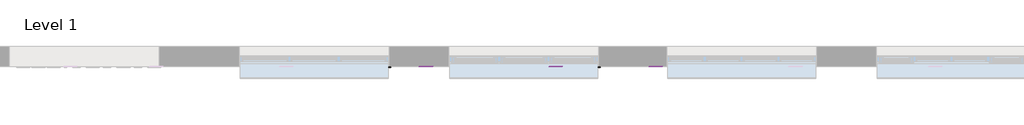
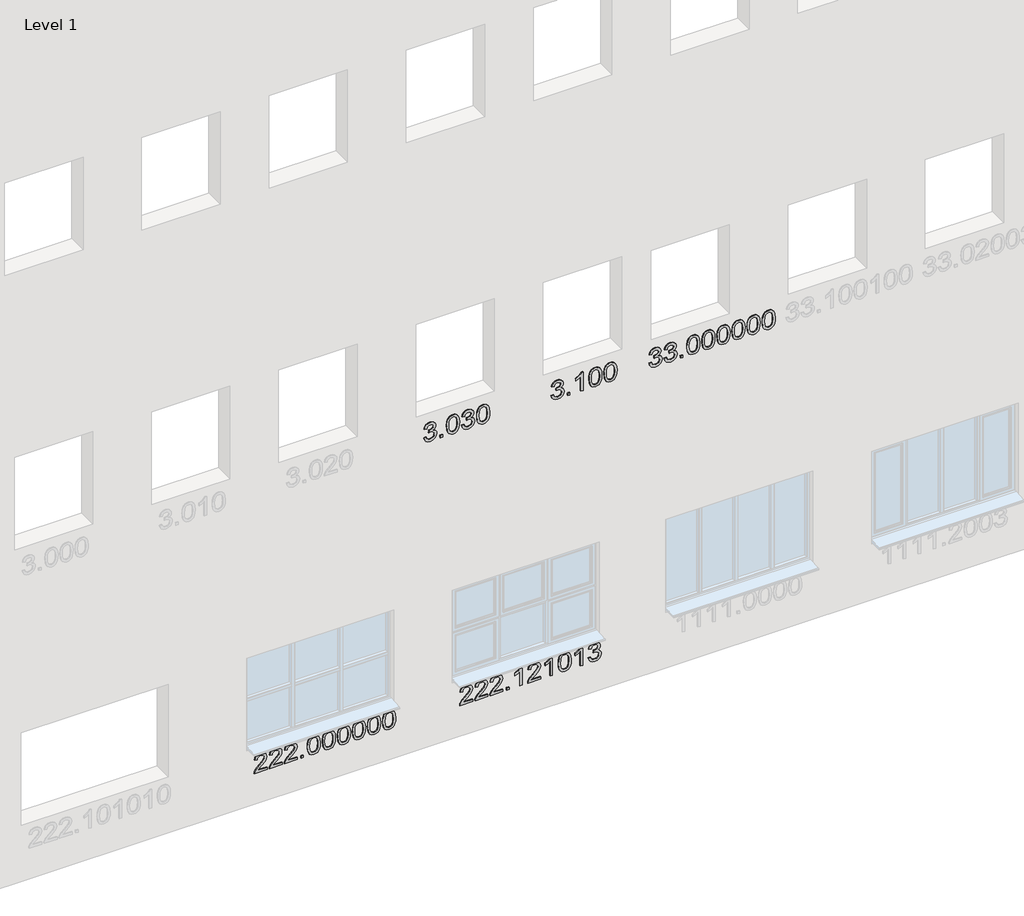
# One storey, part 2 of 3: 5 proxies.
"""IFC4 building model written with IfcOpenShell, lengths in millimetres."""

from ifc_helpers import new_model, si_unit, frame, origin, place, context, project, spatial, polyline, outline, extrude, element, save

model = new_model("IFC4")

# Units and contexts
model_context = context("Model", 3, world=origin())
ifc_project = project(units=[si_unit("LENGTHUNIT", "METRE", prefix="MILLI")], contexts=[model_context])

# Site, building, storey
site = spatial("IfcSite", under=ifc_project)
building = spatial("IfcBuilding", under=site)
storey = spatial("IfcBuildingStorey", under=building, Name="Level 1", Elevation=0.0)

# Proxies
placement = place(None, origin())
element("IfcBuildingElementProxy", 1, Name="200mm Arial", ObjectType="200mm Arial", at=placement, inside=storey, context=model_context, shape_type="SweptSolid", body=[
    extrude(outline(polyline([(3021.5066745, -167048.5681121), (2998.8083554, -167042.3509064), (2980.7453494, -167028.6043825), (2968.9363373, -167008.8368566), (2965.0, -166984.5566449), (2969.6107877, -166957.713522), (2983.4431507, -166935.9471706), (3003.8973896, -166921.5261964), (3028.373805, -166916.719205), (3046.3509719, -166919.1227007), (3061.0417262, -166926.3331878), (3071.8574569, -166937.9827843), (3078.2095526, -166953.7036082), (3085.456828, -166941.7351807), (3094.8378188, -166933.1022165), (3105.8497532, -166927.8782922), (3117.9898591, -166926.1369841), (3131.0190131, -166927.9702627), (3143.3246658, -166933.4700985), (3154.0055064, -166942.4341565), (3162.1602239, -166954.6601014), (3167.328966, -166969.1607834), (3169.05188, -166984.9490524), (3165.557001, -167006.8748193), (3155.0723642, -167024.8765116), (3138.2356315, -167038.0344243), (3115.6844652, -167045.4288524), (3112.5452055, -167020.3147748), (3126.2794667, -167015.8634027), (3136.0896532, -167008.0029907), (3141.9757651, -166997.236311), (3143.9378025, -166984.0661356), (3141.9941592, -166970.9204856), (3136.1632296, -166960.423586), (3127.3647186, -166953.5441927), (3116.5183311, -166951.2510616), (3103.4953085, -166954.4148468), (3094.3473095, -166963.9062022), (3088.9394442, -166977.3584205), (3087.1368224, -166992.4047941), (3087.431128, -166996.4269706), (3062.3170505, -166999.2228738), (3065.0639027, -166981.6135889), (3062.4948601, -166965.8191886), (3054.7877323, -166953.0659461), (3043.1565299, -166944.6414484), (3028.8152634, -166941.8332825), (3013.7075762, -166944.6659739), (3001.2486393, -166953.164048), (2992.897718, -166966.4568507), (2990.1140775, -166983.6737281), (2992.1374285, -166998.3460884), (2998.2074814, -167009.597146), (3008.8637966, -167017.8315714), (3024.6459342, -167023.4540345), (3021.5066745, -167048.5681121)])), frame((0.0, 24202.6264647, 0.0), z_axis=(0.0, 1.0, 0.0), x_axis=(0.0, 0.0, 1.0)), (0.0, 0.0, 1.0), 10.0),
    extrude(outline(polyline([(-166857.0732708, 24202.6264647), (-166882.1873484, 24202.6264647), (-166882.1873484, 24212.6264647), (-166857.0732708, 24212.6264647), (-166857.0732708, 24202.6264647)])), frame((0.0, 0.0, 2968.1392597), z_axis=(0.0, 0.0, 1.0), x_axis=(1.0, 0.0, 0.0)), (0.0, 0.0, 1.0), 25.1140775),
    extrude(outline(polyline([(3066.9768891, -166816.2628949), (3018.1098974, -166811.2596997), (2999.2590108, -166805.0057058), (2984.1298637, -166796.2501143), (2969.7824659, -166776.4335375), (2965.0, -166750.3384413), (2967.7529836, -166730.0374865), (2976.0119344, -166713.5747673), (2989.8688229, -166700.8399189), (3009.4156196, -166691.7225768), (3035.0018123, -166686.241135), (3066.9768891, -166684.4139878), (3114.1884118, -166688.9757245), (3143.913277, -166700.7479484), (3154.6738253, -166709.4177007), (3162.5771569, -166721.0059836), (3167.4331992, -166734.8628721), (3169.05188, -166750.3384413), (3166.3172905, -166770.5290315), (3158.113522, -166786.9549626), (3144.3118158, -166799.7082051), (3124.7834132, -166808.8807295), (3099.1359068, -166814.4173535), (3066.9768891, -166816.2628949)]), holes=[polyline([(3067.02594, -166791.1488173), (3106.0214315, -166788.1076595), (3130.4978469, -166778.984186), (3140.5778136, -166766.3535708), (3143.9378025, -166750.6327469), (3140.1240924, -166734.0290062), (3128.6829624, -166720.9078817), (3105.6412868, -166712.3730194), (3067.02594, -166709.5280653), (3027.5828587, -166712.4711213), (3004.70673, -166721.3002892), (2993.7622407, -166734.4459391), (2990.1140775, -166750.3384413), (2993.7499779, -166766.2309435), (3004.6576791, -166779.3765935), (3027.5215451, -166788.2057614), (3067.02594, -166791.1488173)])]), frame((0.0, 24202.6264647, 0.0), z_axis=(0.0, 1.0, 0.0), x_axis=(0.0, 0.0, 1.0)), (0.0, 0.0, 1.0), 10.0),
    extrude(outline(polyline([(3021.5066745, -166662.4391699), (2998.8083554, -166656.2219642), (2980.7453494, -166642.4754403), (2968.9363373, -166622.7079145), (2965.0, -166598.4277028), (2969.6107877, -166571.5845799), (2983.4431507, -166549.8182285), (3003.8973896, -166535.3972543), (3028.373805, -166530.5902629), (3046.3509719, -166532.9937586), (3061.0417262, -166540.2042457), (3071.8574569, -166551.8538422), (3078.2095526, -166567.5746661), (3085.456828, -166555.6062385), (3094.8378188, -166546.9732744), (3105.8497532, -166541.7493501), (3117.9898591, -166540.0080419), (3131.0190131, -166541.8413205), (3143.3246658, -166547.3411564), (3154.0055064, -166556.3052143), (3162.1602239, -166568.5311593), (3167.328966, -166583.0318413), (3169.05188, -166598.8201102), (3165.557001, -166620.7458771), (3155.0723642, -166638.7475694), (3138.2356315, -166651.9054821), (3115.6844652, -166659.2999102), (3112.5452055, -166634.1858327), (3126.2794667, -166629.7344606), (3136.0896532, -166621.8740486), (3141.9757651, -166611.1073689), (3143.9378025, -166597.9371934), (3141.9941592, -166584.7915435), (3136.1632296, -166574.2946439), (3127.3647186, -166567.4152506), (3116.5183311, -166565.1221195), (3103.4953085, -166568.2859046), (3094.3473095, -166577.7772601), (3088.9394442, -166591.2294784), (3087.1368224, -166606.275852), (3087.431128, -166610.2980285), (3062.3170505, -166613.0939316), (3065.0639027, -166595.4846468), (3062.4948601, -166579.6902465), (3054.7877323, -166566.937004), (3043.1565299, -166558.5125063), (3028.8152634, -166555.7043404), (3013.7075762, -166558.5370318), (3001.2486393, -166567.0351059), (2992.897718, -166580.3279086), (2990.1140775, -166597.544786), (2992.1374285, -166612.2171462), (2998.2074814, -166623.4682039), (3008.8637966, -166631.7026292), (3024.6459342, -166637.3250924), (3021.5066745, -166662.4391699)])), frame((0.0, 24202.6264647, 0.0), z_axis=(0.0, 1.0, 0.0), x_axis=(0.0, 0.0, 1.0)), (0.0, 0.0, 1.0), 10.0),
    extrude(outline(polyline([(3066.9768891, -166508.615445), (3018.1098974, -166503.6122499), (2999.2590108, -166497.358256), (2984.1298637, -166488.6026645), (2969.7824659, -166468.7860877), (2965.0, -166442.6909915), (2967.7529836, -166422.3900367), (2976.0119344, -166405.9273174), (2989.8688229, -166393.192469), (3009.4156196, -166384.0751269), (3035.0018123, -166378.5936852), (3066.9768891, -166376.7665379), (3114.1884118, -166381.3282747), (3143.913277, -166393.1004985), (3154.6738253, -166401.7702509), (3162.5771569, -166413.3585337), (3167.4331992, -166427.2154222), (3169.05188, -166442.6909915), (3166.3172905, -166462.8815817), (3158.113522, -166479.3075127), (3144.3118158, -166492.0607552), (3124.7834132, -166501.2332796), (3099.1359068, -166506.7699037), (3066.9768891, -166508.615445)]), holes=[polyline([(3067.02594, -166483.5013675), (3106.0214315, -166480.4602097), (3130.4978469, -166471.3367362), (3140.5778136, -166458.706121), (3143.9378025, -166442.9852971), (3140.1240924, -166426.3815564), (3128.6829624, -166413.2604319), (3105.6412868, -166404.7255696), (3067.02594, -166401.8806155), (3027.5828587, -166404.8236714), (3004.70673, -166413.6528393), (2993.7622407, -166426.7984893), (2990.1140775, -166442.6909915), (2993.7499779, -166458.5834937), (3004.6576791, -166471.7291436), (3027.5215451, -166480.5583115), (3067.02594, -166483.5013675)])]), frame((0.0, 24202.6264647, 0.0), z_axis=(0.0, 1.0, 0.0), x_axis=(0.0, 0.0, 1.0)), (0.0, 0.0, 1.0), 10.0),
])
element("IfcBuildingElementProxy", 2, Name="200mm Arial", ObjectType="200mm Arial", at=placement, inside=storey, context=model_context, shape_type="SweptSolid", body=[
    extrude(outline(polyline([(3021.5066745, -165748.5681121), (2998.8083554, -165742.3509064), (2980.7453494, -165728.6043825), (2968.9363373, -165708.8368566), (2965.0, -165684.5566449), (2969.6107877, -165657.713522), (2983.4431507, -165635.9471706), (3003.8973896, -165621.5261964), (3028.373805, -165616.719205), (3046.3509719, -165619.1227007), (3061.0417262, -165626.3331878), (3071.8574569, -165637.9827843), (3078.2095526, -165653.7036082), (3085.456828, -165641.7351807), (3094.8378188, -165633.1022165), (3105.8497532, -165627.8782922), (3117.9898591, -165626.1369841), (3131.0190131, -165627.9702627), (3143.3246658, -165633.4700985), (3154.0055064, -165642.4341565), (3162.1602239, -165654.6601014), (3167.328966, -165669.1607834), (3169.05188, -165684.9490524), (3165.557001, -165706.8748193), (3155.0723642, -165724.8765116), (3138.2356315, -165738.0344243), (3115.6844652, -165745.4288524), (3112.5452055, -165720.3147748), (3126.2794667, -165715.8634027), (3136.0896532, -165708.0029907), (3141.9757651, -165697.236311), (3143.9378025, -165684.0661356), (3141.9941592, -165670.9204856), (3136.1632296, -165660.423586), (3127.3647186, -165653.5441927), (3116.5183311, -165651.2510616), (3103.4953085, -165654.4148468), (3094.3473095, -165663.9062022), (3088.9394442, -165677.3584205), (3087.1368224, -165692.4047941), (3087.431128, -165696.4269706), (3062.3170505, -165699.2228738), (3065.0639027, -165681.6135889), (3062.4948601, -165665.8191886), (3054.7877323, -165653.0659461), (3043.1565299, -165644.6414484), (3028.8152634, -165641.8332825), (3013.7075762, -165644.6659739), (3001.2486393, -165653.164048), (2992.897718, -165666.4568507), (2990.1140775, -165683.6737281), (2992.1374285, -165698.3460884), (2998.2074814, -165709.597146), (3008.8637966, -165717.8315714), (3024.6459342, -165723.4540345), (3021.5066745, -165748.5681121)])), frame((0.0, 24202.6264647, 0.0), z_axis=(0.0, 1.0, 0.0), x_axis=(0.0, 0.0, 1.0)), (0.0, 0.0, 1.0), 10.0),
    extrude(outline(polyline([(-165557.0732708, 24202.6264647), (-165582.1873484, 24202.6264647), (-165582.1873484, 24212.6264647), (-165557.0732708, 24212.6264647), (-165557.0732708, 24202.6264647)])), frame((0.0, 0.0, 2968.1392597), z_axis=(0.0, 0.0, 1.0), x_axis=(1.0, 0.0, 0.0)), (0.0, 0.0, 1.0), 25.1140775),
    extrude(outline(polyline([(2968.1392597, -165422.0851041), (3169.05188, -165422.0851041), (3169.05188, -165438.2719119), (3155.8939673, -165447.1439993), (3142.3191217, -165460.6146117), (3118.8237249, -165497.4273367), (3095.0830735, -165497.4273367), (3107.7627396, -165470.988884), (3124.7098368, -165447.1991816), (2968.1392597, -165447.1991816), (2968.1392597, -165422.0851041)])), frame((0.0, 24202.6264647, 0.0), z_axis=(0.0, 1.0, 0.0), x_axis=(0.0, 0.0, 1.0)), (0.0, 0.0, 1.0), 10.0),
    extrude(outline(polyline([(3066.9768891, -165362.4391699), (3018.1098974, -165357.4359748), (2999.2590108, -165351.1819809), (2984.1298637, -165342.4263894), (2969.7824659, -165322.6098126), (2965.0, -165296.5147164), (2967.7529836, -165276.2137616), (2976.0119344, -165259.7510423), (2989.8688229, -165247.0161939), (3009.4156196, -165237.8988518), (3035.0018123, -165232.4174101), (3066.9768891, -165230.5902629), (3114.1884118, -165235.1519996), (3143.913277, -165246.9242234), (3154.6738253, -165255.5939758), (3162.5771569, -165267.1822587), (3167.4331992, -165281.0391471), (3169.05188, -165296.5147164), (3166.3172905, -165316.7053066), (3158.113522, -165333.1312377), (3144.3118158, -165345.8844802), (3124.7834132, -165355.0570046), (3099.1359068, -165360.5936286), (3066.9768891, -165362.4391699)]), holes=[polyline([(3067.02594, -165337.3250924), (3106.0214315, -165334.2839346), (3130.4978469, -165325.1604611), (3140.5778136, -165312.5298459), (3143.9378025, -165296.809022), (3140.1240924, -165280.2052813), (3128.6829624, -165267.0841568), (3105.6412868, -165258.5492945), (3067.02594, -165255.7043404), (3027.5828587, -165258.6473964), (3004.70673, -165267.4765642), (2993.7622407, -165280.6222142), (2990.1140775, -165296.5147164), (2993.7499779, -165312.4072186), (3004.6576791, -165325.5528686), (3027.5215451, -165334.3820364), (3067.02594, -165337.3250924)])]), frame((0.0, 24202.6264647, 0.0), z_axis=(0.0, 1.0, 0.0), x_axis=(0.0, 0.0, 1.0)), (0.0, 0.0, 1.0), 10.0),
    extrude(outline(polyline([(3066.9768891, -165208.615445), (3018.1098974, -165203.6122499), (2999.2590108, -165197.358256), (2984.1298637, -165188.6026645), (2969.7824659, -165168.7860877), (2965.0, -165142.6909915), (2967.7529836, -165122.3900367), (2976.0119344, -165105.9273174), (2989.8688229, -165093.192469), (3009.4156196, -165084.0751269), (3035.0018123, -165078.5936852), (3066.9768891, -165076.7665379), (3114.1884118, -165081.3282747), (3143.913277, -165093.1004985), (3154.6738253, -165101.7702509), (3162.5771569, -165113.3585337), (3167.4331992, -165127.2154222), (3169.05188, -165142.6909915), (3166.3172905, -165162.8815817), (3158.113522, -165179.3075127), (3144.3118158, -165192.0607552), (3124.7834132, -165201.2332796), (3099.1359068, -165206.7699037), (3066.9768891, -165208.615445)]), holes=[polyline([(3067.02594, -165183.5013675), (3106.0214315, -165180.4602097), (3130.4978469, -165171.3367362), (3140.5778136, -165158.706121), (3143.9378025, -165142.9852971), (3140.1240924, -165126.3815564), (3128.6829624, -165113.2604319), (3105.6412868, -165104.7255696), (3067.02594, -165101.8806155), (3027.5828587, -165104.8236714), (3004.70673, -165113.6528393), (2993.7622407, -165126.7984893), (2990.1140775, -165142.6909915), (2993.7499779, -165158.5834937), (3004.6576791, -165171.7291436), (3027.5215451, -165180.5583115), (3067.02594, -165183.5013675)])]), frame((0.0, 24202.6264647, 0.0), z_axis=(0.0, 1.0, 0.0), x_axis=(0.0, 0.0, 1.0)), (0.0, 0.0, 1.0), 10.0),
])
element("IfcBuildingElementProxy", 3, Name="200mm Arial", ObjectType="200mm Arial", at=placement, inside=storey, context=model_context, shape_type="SweptSolid", body=[
    extrude(outline(polyline([(3021.5066745, -164748.5681121), (2998.8083554, -164742.3509064), (2980.7453494, -164728.6043825), (2968.9363373, -164708.8368566), (2965.0, -164684.5566449), (2969.6107877, -164657.713522), (2983.4431507, -164635.9471706), (3003.8973896, -164621.5261964), (3028.373805, -164616.719205), (3046.3509719, -164619.1227007), (3061.0417262, -164626.3331878), (3071.8574569, -164637.9827843), (3078.2095526, -164653.7036082), (3085.456828, -164641.7351807), (3094.8378188, -164633.1022165), (3105.8497532, -164627.8782922), (3117.9898591, -164626.1369841), (3131.0190131, -164627.9702627), (3143.3246658, -164633.4700985), (3154.0055064, -164642.4341565), (3162.1602239, -164654.6601014), (3167.328966, -164669.1607834), (3169.05188, -164684.9490524), (3165.557001, -164706.8748193), (3155.0723642, -164724.8765116), (3138.2356315, -164738.0344243), (3115.6844652, -164745.4288524), (3112.5452055, -164720.3147748), (3126.2794667, -164715.8634027), (3136.0896532, -164708.0029907), (3141.9757651, -164697.236311), (3143.9378025, -164684.0661356), (3141.9941592, -164670.9204856), (3136.1632296, -164660.423586), (3127.3647186, -164653.5441927), (3116.5183311, -164651.2510616), (3103.4953085, -164654.4148468), (3094.3473095, -164663.9062022), (3088.9394442, -164677.3584205), (3087.1368224, -164692.4047941), (3087.431128, -164696.4269706), (3062.3170505, -164699.2228738), (3065.0639027, -164681.6135889), (3062.4948601, -164665.8191886), (3054.7877323, -164653.0659461), (3043.1565299, -164644.6414484), (3028.8152634, -164641.8332825), (3013.7075762, -164644.6659739), (3001.2486393, -164653.164048), (2992.897718, -164666.4568507), (2990.1140775, -164683.6737281), (2992.1374285, -164698.3460884), (2998.2074814, -164709.597146), (3008.8637966, -164717.8315714), (3024.6459342, -164723.4540345), (3021.5066745, -164748.5681121)])), frame((0.0, 24202.6264647, 0.0), z_axis=(0.0, 1.0, 0.0), x_axis=(0.0, 0.0, 1.0)), (0.0, 0.0, 1.0), 10.0),
    extrude(outline(polyline([(3021.5066745, -164594.7443872), (2998.8083554, -164588.5271814), (2980.7453494, -164574.7806576), (2968.9363373, -164555.0131317), (2965.0, -164530.73292), (2969.6107877, -164503.8897971), (2983.4431507, -164482.1234457), (3003.8973896, -164467.7024715), (3028.373805, -164462.8954801), (3046.3509719, -164465.2989758), (3061.0417262, -164472.5094629), (3071.8574569, -164484.1590594), (3078.2095526, -164499.8798833), (3085.456828, -164487.9114558), (3094.8378188, -164479.2784916), (3105.8497532, -164474.0545673), (3117.9898591, -164472.3132592), (3131.0190131, -164474.1465378), (3143.3246658, -164479.6463736), (3154.0055064, -164488.6104315), (3162.1602239, -164500.8363765), (3167.328966, -164515.3370585), (3169.05188, -164531.1253275), (3165.557001, -164553.0510944), (3155.0723642, -164571.0527867), (3138.2356315, -164584.2106994), (3115.6844652, -164591.6051275), (3112.5452055, -164566.4910499), (3126.2794667, -164562.0396778), (3136.0896532, -164554.1792658), (3141.9757651, -164543.4125861), (3143.9378025, -164530.2424107), (3141.9941592, -164517.0967607), (3136.1632296, -164506.5998611), (3127.3647186, -164499.7204678), (3116.5183311, -164497.4273367), (3103.4953085, -164500.5911219), (3094.3473095, -164510.0824773), (3088.9394442, -164523.5346956), (3087.1368224, -164538.5810692), (3087.431128, -164542.6032457), (3062.3170505, -164545.3991489), (3065.0639027, -164527.789864), (3062.4948601, -164511.9954637), (3054.7877323, -164499.2422212), (3043.1565299, -164490.8177235), (3028.8152634, -164488.0095576), (3013.7075762, -164490.842249), (3001.2486393, -164499.3403231), (2992.897718, -164512.6331258), (2990.1140775, -164529.8500032), (2992.1374285, -164544.5223634), (2998.2074814, -164555.7734211), (3008.8637966, -164564.0078465), (3024.6459342, -164569.6303096), (3021.5066745, -164594.7443872)])), frame((0.0, 24202.6264647, 0.0), z_axis=(0.0, 1.0, 0.0), x_axis=(0.0, 0.0, 1.0)), (0.0, 0.0, 1.0), 10.0),
    extrude(outline(polyline([(-164403.2495459, 24202.6264647), (-164428.3636235, 24202.6264647), (-164428.3636235, 24212.6264647), (-164403.2495459, 24212.6264647), (-164403.2495459, 24202.6264647)])), frame((0.0, 0.0, 2968.1392597), z_axis=(0.0, 0.0, 1.0), x_axis=(1.0, 0.0, 0.0)), (0.0, 0.0, 1.0), 25.1140775),
    extrude(outline(polyline([(3066.9768891, -164362.4391699), (3018.1098974, -164357.4359748), (2999.2590108, -164351.1819809), (2984.1298637, -164342.4263894), (2969.7824659, -164322.6098126), (2965.0, -164296.5147164), (2967.7529836, -164276.2137616), (2976.0119344, -164259.7510423), (2989.8688229, -164247.0161939), (3009.4156196, -164237.8988518), (3035.0018123, -164232.4174101), (3066.9768891, -164230.5902629), (3114.1884118, -164235.1519996), (3143.913277, -164246.9242234), (3154.6738253, -164255.5939758), (3162.5771569, -164267.1822587), (3167.4331992, -164281.0391471), (3169.05188, -164296.5147164), (3166.3172905, -164316.7053066), (3158.113522, -164333.1312377), (3144.3118158, -164345.8844802), (3124.7834132, -164355.0570046), (3099.1359068, -164360.5936286), (3066.9768891, -164362.4391699)]), holes=[polyline([(3067.02594, -164337.3250924), (3106.0214315, -164334.2839346), (3130.4978469, -164325.1604611), (3140.5778136, -164312.5298459), (3143.9378025, -164296.809022), (3140.1240924, -164280.2052813), (3128.6829624, -164267.0841568), (3105.6412868, -164258.5492945), (3067.02594, -164255.7043404), (3027.5828587, -164258.6473964), (3004.70673, -164267.4765642), (2993.7622407, -164280.6222142), (2990.1140775, -164296.5147164), (2993.7499779, -164312.4072186), (3004.6576791, -164325.5528686), (3027.5215451, -164334.3820364), (3067.02594, -164337.3250924)])]), frame((0.0, 24202.6264647, 0.0), z_axis=(0.0, 1.0, 0.0), x_axis=(0.0, 0.0, 1.0)), (0.0, 0.0, 1.0), 10.0),
    extrude(outline(polyline([(3066.9768891, -164208.615445), (3018.1098974, -164203.6122499), (2999.2590108, -164197.358256), (2984.1298637, -164188.6026645), (2969.7824659, -164168.7860877), (2965.0, -164142.6909915), (2967.7529836, -164122.3900367), (2976.0119344, -164105.9273174), (2989.8688229, -164093.192469), (3009.4156196, -164084.0751269), (3035.0018123, -164078.5936852), (3066.9768891, -164076.7665379), (3114.1884118, -164081.3282747), (3143.913277, -164093.1004985), (3154.6738253, -164101.7702509), (3162.5771569, -164113.3585337), (3167.4331992, -164127.2154222), (3169.05188, -164142.6909915), (3166.3172905, -164162.8815817), (3158.113522, -164179.3075127), (3144.3118158, -164192.0607552), (3124.7834132, -164201.2332796), (3099.1359068, -164206.7699037), (3066.9768891, -164208.615445)]), holes=[polyline([(3067.02594, -164183.5013675), (3106.0214315, -164180.4602097), (3130.4978469, -164171.3367362), (3140.5778136, -164158.706121), (3143.9378025, -164142.9852971), (3140.1240924, -164126.3815564), (3128.6829624, -164113.2604319), (3105.6412868, -164104.7255696), (3067.02594, -164101.8806155), (3027.5828587, -164104.8236714), (3004.70673, -164113.6528393), (2993.7622407, -164126.7984893), (2990.1140775, -164142.6909915), (2993.7499779, -164158.5834937), (3004.6576791, -164171.7291436), (3027.5215451, -164180.5583115), (3067.02594, -164183.5013675)])]), frame((0.0, 24202.6264647, 0.0), z_axis=(0.0, 1.0, 0.0), x_axis=(0.0, 0.0, 1.0)), (0.0, 0.0, 1.0), 10.0),
    extrude(outline(polyline([(3066.9768891, -164054.7917201), (3018.1098974, -164049.788525), (2999.2590108, -164043.534531), (2984.1298637, -164034.7789396), (2969.7824659, -164014.9623628), (2965.0, -163988.8672666), (2967.7529836, -163968.5663118), (2976.0119344, -163952.1035925), (2989.8688229, -163939.3687441), (3009.4156196, -163930.251402), (3035.0018123, -163924.7699603), (3066.9768891, -163922.942813), (3114.1884118, -163927.5045498), (3143.913277, -163939.2767736), (3154.6738253, -163947.946526), (3162.5771569, -163959.5348088), (3167.4331992, -163973.3916973), (3169.05188, -163988.8672666), (3166.3172905, -164009.0578567), (3158.113522, -164025.4837878), (3144.3118158, -164038.2370303), (3124.7834132, -164047.4095547), (3099.1359068, -164052.9461788), (3066.9768891, -164054.7917201)]), holes=[polyline([(3067.02594, -164029.6776426), (3106.0214315, -164026.6364847), (3130.4978469, -164017.5130113), (3140.5778136, -164004.8823961), (3143.9378025, -163989.1615722), (3140.1240924, -163972.5578314), (3128.6829624, -163959.436707), (3105.6412868, -163950.9018447), (3067.02594, -163948.0568906), (3027.5828587, -163950.9999465), (3004.70673, -163959.8291144), (2993.7622407, -163972.9747644), (2990.1140775, -163988.8672666), (2993.7499779, -164004.7597688), (3004.6576791, -164017.9054187), (3027.5215451, -164026.7345866), (3067.02594, -164029.6776426)])]), frame((0.0, 24202.6264647, 0.0), z_axis=(0.0, 1.0, 0.0), x_axis=(0.0, 0.0, 1.0)), (0.0, 0.0, 1.0), 10.0),
    extrude(outline(polyline([(3066.9768891, -163900.9679952), (3018.1098974, -163895.9648001), (2999.2590108, -163889.7108061), (2984.1298637, -163880.9552146), (2969.7824659, -163861.1386378), (2965.0, -163835.0435416), (2967.7529836, -163814.7425869), (2976.0119344, -163798.2798676), (2989.8688229, -163785.5450192), (3009.4156196, -163776.4276771), (3035.0018123, -163770.9462354), (3066.9768891, -163769.1190881), (3114.1884118, -163773.6808249), (3143.913277, -163785.4530487), (3154.6738253, -163794.1228011), (3162.5771569, -163805.7110839), (3167.4331992, -163819.5679724), (3169.05188, -163835.0435416), (3166.3172905, -163855.2341318), (3158.113522, -163871.6600629), (3144.3118158, -163884.4133054), (3124.7834132, -163893.5858298), (3099.1359068, -163899.1224538), (3066.9768891, -163900.9679952)]), holes=[polyline([(3067.02594, -163875.8539176), (3106.0214315, -163872.8127598), (3130.4978469, -163863.6892863), (3140.5778136, -163851.0586712), (3143.9378025, -163835.3378472), (3140.1240924, -163818.7341065), (3128.6829624, -163805.612982), (3105.6412868, -163797.0781197), (3067.02594, -163794.2331657), (3027.5828587, -163797.1762216), (3004.70673, -163806.0053895), (2993.7622407, -163819.1510395), (2990.1140775, -163835.0435416), (2993.7499779, -163850.9360438), (3004.6576791, -163864.0816938), (3027.5215451, -163872.9108617), (3067.02594, -163875.8539176)])]), frame((0.0, 24202.6264647, 0.0), z_axis=(0.0, 1.0, 0.0), x_axis=(0.0, 0.0, 1.0)), (0.0, 0.0, 1.0), 10.0),
    extrude(outline(polyline([(3066.9768891, -163747.1442703), (3018.1098974, -163742.1410751), (2999.2590108, -163735.8870812), (2984.1298637, -163727.1314897), (2969.7824659, -163707.3149129), (2965.0, -163681.2198167), (2967.7529836, -163660.918862), (2976.0119344, -163644.4561427), (2989.8688229, -163631.7212943), (3009.4156196, -163622.6039522), (3035.0018123, -163617.1225104), (3066.9768891, -163615.2953632), (3114.1884118, -163619.8570999), (3143.913277, -163631.6293238), (3154.6738253, -163640.2990761), (3162.5771569, -163651.887359), (3167.4331992, -163665.7442475), (3169.05188, -163681.2198167), (3166.3172905, -163701.4104069), (3158.113522, -163717.836338), (3144.3118158, -163730.5895805), (3124.7834132, -163739.7621049), (3099.1359068, -163745.2987289), (3066.9768891, -163747.1442703)]), holes=[polyline([(3067.02594, -163722.0301927), (3106.0214315, -163718.9890349), (3130.4978469, -163709.8655614), (3140.5778136, -163697.2349463), (3143.9378025, -163681.5141223), (3140.1240924, -163664.9103816), (3128.6829624, -163651.7892571), (3105.6412868, -163643.2543948), (3067.02594, -163640.4094407), (3027.5828587, -163643.3524967), (3004.70673, -163652.1816646), (2993.7622407, -163665.3273145), (2990.1140775, -163681.2198167), (2993.7499779, -163697.1123189), (3004.6576791, -163710.2579689), (3027.5215451, -163719.0871368), (3067.02594, -163722.0301927)])]), frame((0.0, 24202.6264647, 0.0), z_axis=(0.0, 1.0, 0.0), x_axis=(0.0, 0.0, 1.0)), (0.0, 0.0, 1.0), 10.0),
    extrude(outline(polyline([(3066.9768891, -163593.3205454), (3018.1098974, -163588.3173502), (2999.2590108, -163582.0633563), (2984.1298637, -163573.3077648), (2969.7824659, -163553.491188), (2965.0, -163527.3960918), (2967.7529836, -163507.095137), (2976.0119344, -163490.6324178), (2989.8688229, -163477.8975694), (3009.4156196, -163468.7802273), (3035.0018123, -163463.2987855), (3066.9768891, -163461.4716383), (3114.1884118, -163466.033375), (3143.913277, -163477.8055989), (3154.6738253, -163486.4753512), (3162.5771569, -163498.0636341), (3167.4331992, -163511.9205226), (3169.05188, -163527.3960918), (3166.3172905, -163547.586682), (3158.113522, -163564.0126131), (3144.3118158, -163576.7658556), (3124.7834132, -163585.93838), (3099.1359068, -163591.475004), (3066.9768891, -163593.3205454)]), holes=[polyline([(3067.02594, -163568.2064678), (3106.0214315, -163565.16531), (3130.4978469, -163556.0418365), (3140.5778136, -163543.4112213), (3143.9378025, -163527.6903974), (3140.1240924, -163511.0866567), (3128.6829624, -163497.9655322), (3105.6412868, -163489.4306699), (3067.02594, -163486.5857158), (3027.5828587, -163489.5287718), (3004.70673, -163498.3579397), (2993.7622407, -163511.5035896), (2990.1140775, -163527.3960918), (2993.7499779, -163543.288594), (3004.6576791, -163556.434244), (3027.5215451, -163565.2634119), (3067.02594, -163568.2064678)])]), frame((0.0, 24202.6264647, 0.0), z_axis=(0.0, 1.0, 0.0), x_axis=(0.0, 0.0, 1.0)), (0.0, 0.0, 1.0), 10.0),
])
element("IfcBuildingElementProxy", 4, Name="200mm Arial", ObjectType="200mm Arial", at=placement, inside=storey, context=model_context, shape_type="SweptSolid", body=[
    extrude(outline(polyline([(28.2533372, -168648.8584647), (28.2533372, -168747.4998903), (41.0311052, -168736.1691249), (65.1886895, -168707.2781255), (99.5979188, -168671.2992664), (124.221487, -168656.4613593), (148.0357149, -168651.9977244), (169.9369563, -168656.1363968), (187.9631741, -168668.5524142), (200.0297035, -168688.068554), (204.05188, -168713.507594), (200.4343737, -168738.7626929), (189.5818548, -168758.315621), (171.8376799, -168771.4796651), (147.5452055, -168777.5681121), (144.4059458, -168752.4540345), (158.8391828, -168749.7378391), (169.765278, -168741.8835585), (176.6446714, -168729.7127959), (178.9378025, -168714.0471542), (176.5894891, -168699.1295393), (169.5445488, -168687.3389214), (159.0905688, -168679.6685818), (146.5151359, -168677.1118019), (132.4865692, -168679.821866), (118.065595, -168687.952058), (76.2251494, -168731.3130825), (47.1134208, -168762.7547304), (20.4542389, -168778.0095705), (3.1392597, -168780.7073718), (3.1392597, -168648.8584647), (28.2533372, -168648.8584647)])), frame((0.0, 24202.6264647, 0.0), z_axis=(0.0, 1.0, 0.0), x_axis=(0.0, 0.0, 1.0)), (0.0, 0.0, 1.0), 10.0),
    extrude(outline(polyline([(28.2533372, -168495.0347398), (28.2533372, -168593.6761654), (41.0311052, -168582.3454), (65.1886895, -168553.4544006), (99.5979188, -168517.4755415), (124.221487, -168502.6376343), (148.0357149, -168498.1739995), (169.9369563, -168502.3126719), (187.9631741, -168514.7286893), (200.0297035, -168534.2448291), (204.05188, -168559.6838691), (200.4343737, -168584.938968), (189.5818548, -168604.4918961), (171.8376799, -168617.6559401), (147.5452055, -168623.7443872), (144.4059458, -168598.6303096), (158.8391828, -168595.9141142), (169.765278, -168588.0598336), (176.6446714, -168575.8890709), (178.9378025, -168560.2234293), (176.5894891, -168545.3058144), (169.5445488, -168533.5151965), (159.0905688, -168525.8448569), (146.5151359, -168523.288077), (132.4865692, -168525.998141), (118.065595, -168534.1283331), (76.2251494, -168577.4893576), (47.1134208, -168608.9310055), (20.4542389, -168624.1858455), (3.1392597, -168626.8836468), (3.1392597, -168495.0347398), (28.2533372, -168495.0347398)])), frame((0.0, 24202.6264647, 0.0), z_axis=(0.0, 1.0, 0.0), x_axis=(0.0, 0.0, 1.0)), (0.0, 0.0, 1.0), 10.0),
    extrude(outline(polyline([(28.2533372, -168341.2110149), (28.2533372, -168439.8524405), (41.0311052, -168428.521675), (65.1886895, -168399.6306757), (99.5979188, -168363.6518166), (124.221487, -168348.8139094), (148.0357149, -168344.3502746), (169.9369563, -168348.488947), (187.9631741, -168360.9049643), (200.0297035, -168380.4211042), (204.05188, -168405.8601441), (200.4343737, -168431.1152431), (189.5818548, -168450.6681712), (171.8376799, -168463.8322152), (147.5452055, -168469.9206622), (144.4059458, -168444.8065847), (158.8391828, -168442.0903893), (169.765278, -168434.2361087), (176.6446714, -168422.065346), (178.9378025, -168406.3997044), (176.5894891, -168391.4820895), (169.5445488, -168379.6914716), (159.0905688, -168372.021132), (146.5151359, -168369.4643521), (132.4865692, -168372.1744161), (118.065595, -168380.3046082), (76.2251494, -168423.6656327), (47.1134208, -168455.1072806), (20.4542389, -168470.3621206), (3.1392597, -168473.0599219), (3.1392597, -168341.2110149), (28.2533372, -168341.2110149)])), frame((0.0, 24202.6264647, 0.0), z_axis=(0.0, 1.0, 0.0), x_axis=(0.0, 0.0, 1.0)), (0.0, 0.0, 1.0), 10.0),
    extrude(outline(polyline([(-168278.425821, 24202.6264647), (-168303.5398986, 24202.6264647), (-168303.5398986, 24212.6264647), (-168278.425821, 24212.6264647), (-168278.425821, 24202.6264647)])), frame((0.0, 0.0, 3.1392597), z_axis=(0.0, 0.0, 1.0), x_axis=(1.0, 0.0, 0.0)), (0.0, 0.0, 1.0), 25.1140775),
    extrude(outline(polyline([(101.9768891, -168237.615445), (53.1098974, -168232.6122499), (34.2590108, -168226.358256), (19.1298637, -168217.6026645), (4.7824659, -168197.7860877), (0.0, -168171.6909915), (2.7529836, -168151.3900367), (11.0119344, -168134.9273174), (24.8688229, -168122.192469), (44.4156196, -168113.0751269), (70.0018123, -168107.5936852), (101.9768891, -168105.7665379), (149.1884118, -168110.3282747), (178.913277, -168122.1004985), (189.6738253, -168130.7702509), (197.5771569, -168142.3585337), (202.4331992, -168156.2154222), (204.05188, -168171.6909915), (201.3172905, -168191.8815817), (193.113522, -168208.3075127), (179.3118158, -168221.0607552), (159.7834132, -168230.2332796), (134.1359068, -168235.7699037), (101.9768891, -168237.615445)]), holes=[polyline([(102.02594, -168212.5013675), (141.0214315, -168209.4602097), (165.4978469, -168200.3367362), (175.5778136, -168187.706121), (178.9378025, -168171.9852971), (175.1240924, -168155.3815564), (163.6829624, -168142.2604319), (140.6412868, -168133.7255696), (102.02594, -168130.8806155), (62.5828587, -168133.8236714), (39.70673, -168142.6528393), (28.7622407, -168155.7984893), (25.1140775, -168171.6909915), (28.7499779, -168187.5834937), (39.6576791, -168200.7291436), (62.5215451, -168209.5583115), (102.02594, -168212.5013675)])]), frame((0.0, 24202.6264647, 0.0), z_axis=(0.0, 1.0, 0.0), x_axis=(0.0, 0.0, 1.0)), (0.0, 0.0, 1.0), 10.0),
    extrude(outline(polyline([(101.9768891, -168083.7917201), (53.1098974, -168078.788525), (34.2590108, -168072.534531), (19.1298637, -168063.7789396), (4.7824659, -168043.9623628), (0.0, -168017.8672666), (2.7529836, -167997.5663118), (11.0119344, -167981.1035925), (24.8688229, -167968.3687441), (44.4156196, -167959.251402), (70.0018123, -167953.7699603), (101.9768891, -167951.942813), (149.1884118, -167956.5045498), (178.913277, -167968.2767736), (189.6738253, -167976.946526), (197.5771569, -167988.5348088), (202.4331992, -168002.3916973), (204.05188, -168017.8672666), (201.3172905, -168038.0578567), (193.113522, -168054.4837878), (179.3118158, -168067.2370303), (159.7834132, -168076.4095547), (134.1359068, -168081.9461788), (101.9768891, -168083.7917201)]), holes=[polyline([(102.02594, -168058.6776426), (141.0214315, -168055.6364847), (165.4978469, -168046.5130113), (175.5778136, -168033.8823961), (178.9378025, -168018.1615722), (175.1240924, -168001.5578314), (163.6829624, -167988.436707), (140.6412868, -167979.9018447), (102.02594, -167977.0568906), (62.5828587, -167979.9999465), (39.70673, -167988.8291144), (28.7622407, -168001.9747644), (25.1140775, -168017.8672666), (28.7499779, -168033.7597688), (39.6576791, -168046.9054187), (62.5215451, -168055.7345866), (102.02594, -168058.6776426)])]), frame((0.0, 24202.6264647, 0.0), z_axis=(0.0, 1.0, 0.0), x_axis=(0.0, 0.0, 1.0)), (0.0, 0.0, 1.0), 10.0),
    extrude(outline(polyline([(101.9768891, -167929.9679952), (53.1098974, -167924.9648001), (34.2590108, -167918.7108061), (19.1298637, -167909.9552146), (4.7824659, -167890.1386378), (0.0, -167864.0435416), (2.7529836, -167843.7425869), (11.0119344, -167827.2798676), (24.8688229, -167814.5450192), (44.4156196, -167805.4276771), (70.0018123, -167799.9462354), (101.9768891, -167798.1190881), (149.1884118, -167802.6808249), (178.913277, -167814.4530487), (189.6738253, -167823.1228011), (197.5771569, -167834.7110839), (202.4331992, -167848.5679724), (204.05188, -167864.0435416), (201.3172905, -167884.2341318), (193.113522, -167900.6600629), (179.3118158, -167913.4133054), (159.7834132, -167922.5858298), (134.1359068, -167928.1224538), (101.9768891, -167929.9679952)]), holes=[polyline([(102.02594, -167904.8539176), (141.0214315, -167901.8127598), (165.4978469, -167892.6892863), (175.5778136, -167880.0586712), (178.9378025, -167864.3378472), (175.1240924, -167847.7341065), (163.6829624, -167834.612982), (140.6412868, -167826.0781197), (102.02594, -167823.2331657), (62.5828587, -167826.1762216), (39.70673, -167835.0053895), (28.7622407, -167848.1510395), (25.1140775, -167864.0435416), (28.7499779, -167879.9360438), (39.6576791, -167893.0816938), (62.5215451, -167901.9108617), (102.02594, -167904.8539176)])]), frame((0.0, 24202.6264647, 0.0), z_axis=(0.0, 1.0, 0.0), x_axis=(0.0, 0.0, 1.0)), (0.0, 0.0, 1.0), 10.0),
    extrude(outline(polyline([(101.9768891, -167776.1442703), (53.1098974, -167771.1410751), (34.2590108, -167764.8870812), (19.1298637, -167756.1314897), (4.7824659, -167736.3149129), (0.0, -167710.2198167), (2.7529836, -167689.918862), (11.0119344, -167673.4561427), (24.8688229, -167660.7212943), (44.4156196, -167651.6039522), (70.0018123, -167646.1225104), (101.9768891, -167644.2953632), (149.1884118, -167648.8570999), (178.913277, -167660.6293238), (189.6738253, -167669.2990761), (197.5771569, -167680.887359), (202.4331992, -167694.7442475), (204.05188, -167710.2198167), (201.3172905, -167730.4104069), (193.113522, -167746.836338), (179.3118158, -167759.5895805), (159.7834132, -167768.7621049), (134.1359068, -167774.2987289), (101.9768891, -167776.1442703)]), holes=[polyline([(102.02594, -167751.0301927), (141.0214315, -167747.9890349), (165.4978469, -167738.8655614), (175.5778136, -167726.2349463), (178.9378025, -167710.5141223), (175.1240924, -167693.9103816), (163.6829624, -167680.7892571), (140.6412868, -167672.2543948), (102.02594, -167669.4094407), (62.5828587, -167672.3524967), (39.70673, -167681.1816646), (28.7622407, -167694.3273145), (25.1140775, -167710.2198167), (28.7499779, -167726.1123189), (39.6576791, -167739.2579689), (62.5215451, -167748.0871368), (102.02594, -167751.0301927)])]), frame((0.0, 24202.6264647, 0.0), z_axis=(0.0, 1.0, 0.0), x_axis=(0.0, 0.0, 1.0)), (0.0, 0.0, 1.0), 10.0),
    extrude(outline(polyline([(101.9768891, -167622.3205454), (53.1098974, -167617.3173502), (34.2590108, -167611.0633563), (19.1298637, -167602.3077648), (4.7824659, -167582.491188), (0.0, -167556.3960918), (2.7529836, -167536.095137), (11.0119344, -167519.6324178), (24.8688229, -167506.8975694), (44.4156196, -167497.7802273), (70.0018123, -167492.2987855), (101.9768891, -167490.4716383), (149.1884118, -167495.033375), (178.913277, -167506.8055989), (189.6738253, -167515.4753512), (197.5771569, -167527.0636341), (202.4331992, -167540.9205226), (204.05188, -167556.3960918), (201.3172905, -167576.586682), (193.113522, -167593.0126131), (179.3118158, -167605.7658556), (159.7834132, -167614.93838), (134.1359068, -167620.475004), (101.9768891, -167622.3205454)]), holes=[polyline([(102.02594, -167597.2064678), (141.0214315, -167594.16531), (165.4978469, -167585.0418365), (175.5778136, -167572.4112213), (178.9378025, -167556.6903974), (175.1240924, -167540.0866567), (163.6829624, -167526.9655322), (140.6412868, -167518.4306699), (102.02594, -167515.5857158), (62.5828587, -167518.5287718), (39.70673, -167527.3579397), (28.7622407, -167540.5035896), (25.1140775, -167556.3960918), (28.7499779, -167572.288594), (39.6576791, -167585.434244), (62.5215451, -167594.2634119), (102.02594, -167597.2064678)])]), frame((0.0, 24202.6264647, 0.0), z_axis=(0.0, 1.0, 0.0), x_axis=(0.0, 0.0, 1.0)), (0.0, 0.0, 1.0), 10.0),
    extrude(outline(polyline([(101.9768891, -167468.4968204), (53.1098974, -167463.4936253), (34.2590108, -167457.2396314), (19.1298637, -167448.4840399), (4.7824659, -167428.6674631), (0.0, -167402.5723669), (2.7529836, -167382.2714121), (11.0119344, -167365.8086928), (24.8688229, -167353.0738444), (44.4156196, -167343.9565023), (70.0018123, -167338.4750606), (101.9768891, -167336.6479134), (149.1884118, -167341.2096501), (178.913277, -167352.9818739), (189.6738253, -167361.6516263), (197.5771569, -167373.2399092), (202.4331992, -167387.0967976), (204.05188, -167402.5723669), (201.3172905, -167422.7629571), (193.113522, -167439.1888882), (179.3118158, -167451.9421307), (159.7834132, -167461.1146551), (134.1359068, -167466.6512791), (101.9768891, -167468.4968204)]), holes=[polyline([(102.02594, -167443.3827429), (141.0214315, -167440.3415851), (165.4978469, -167431.2181116), (175.5778136, -167418.5874964), (178.9378025, -167402.8666725), (175.1240924, -167386.2629318), (163.6829624, -167373.1418073), (140.6412868, -167364.606945), (102.02594, -167361.7619909), (62.5828587, -167364.7050469), (39.70673, -167373.5342147), (28.7622407, -167386.6798647), (25.1140775, -167402.5723669), (28.7499779, -167418.4648691), (39.6576791, -167431.6105191), (62.5215451, -167440.4396869), (102.02594, -167443.3827429)])]), frame((0.0, 24202.6264647, 0.0), z_axis=(0.0, 1.0, 0.0), x_axis=(0.0, 0.0, 1.0)), (0.0, 0.0, 1.0), 10.0),
])
element("IfcBuildingElementProxy", 5, Name="200mm Arial", ObjectType="200mm Arial", at=placement, inside=storey, context=model_context, shape_type="SweptSolid", body=[
    extrude(outline(polyline([(28.2533372, -166548.8584647), (28.2533372, -166647.4998903), (41.0311052, -166636.1691249), (65.1886895, -166607.2781255), (99.5979188, -166571.2992664), (124.221487, -166556.4613593), (148.0357149, -166551.9977244), (169.9369563, -166556.1363968), (187.9631741, -166568.5524142), (200.0297035, -166588.068554), (204.05188, -166613.507594), (200.4343737, -166638.7626929), (189.5818548, -166658.315621), (171.8376799, -166671.4796651), (147.5452055, -166677.5681121), (144.4059458, -166652.4540345), (158.8391828, -166649.7378391), (169.765278, -166641.8835585), (176.6446714, -166629.7127959), (178.9378025, -166614.0471542), (176.5894891, -166599.1295393), (169.5445488, -166587.3389214), (159.0905688, -166579.6685818), (146.5151359, -166577.1118019), (132.4865692, -166579.821866), (118.065595, -166587.952058), (76.2251494, -166631.3130825), (47.1134208, -166662.7547304), (20.4542389, -166678.0095705), (3.1392597, -166680.7073718), (3.1392597, -166548.8584647), (28.2533372, -166548.8584647)])), frame((0.0, 24202.6264647, 0.0), z_axis=(0.0, 1.0, 0.0), x_axis=(0.0, 0.0, 1.0)), (0.0, 0.0, 1.0), 10.0),
    extrude(outline(polyline([(28.2533372, -166395.0347398), (28.2533372, -166493.6761654), (41.0311052, -166482.3454), (65.1886895, -166453.4544006), (99.5979188, -166417.4755415), (124.221487, -166402.6376343), (148.0357149, -166398.1739995), (169.9369563, -166402.3126719), (187.9631741, -166414.7286893), (200.0297035, -166434.2448291), (204.05188, -166459.6838691), (200.4343737, -166484.938968), (189.5818548, -166504.4918961), (171.8376799, -166517.6559401), (147.5452055, -166523.7443872), (144.4059458, -166498.6303096), (158.8391828, -166495.9141142), (169.765278, -166488.0598336), (176.6446714, -166475.8890709), (178.9378025, -166460.2234293), (176.5894891, -166445.3058144), (169.5445488, -166433.5151965), (159.0905688, -166425.8448569), (146.5151359, -166423.288077), (132.4865692, -166425.998141), (118.065595, -166434.1283331), (76.2251494, -166477.4893576), (47.1134208, -166508.9310055), (20.4542389, -166524.1858455), (3.1392597, -166526.8836468), (3.1392597, -166395.0347398), (28.2533372, -166395.0347398)])), frame((0.0, 24202.6264647, 0.0), z_axis=(0.0, 1.0, 0.0), x_axis=(0.0, 0.0, 1.0)), (0.0, 0.0, 1.0), 10.0),
    extrude(outline(polyline([(28.2533372, -166241.2110149), (28.2533372, -166339.8524405), (41.0311052, -166328.521675), (65.1886895, -166299.6306757), (99.5979188, -166263.6518166), (124.221487, -166248.8139094), (148.0357149, -166244.3502746), (169.9369563, -166248.488947), (187.9631741, -166260.9049643), (200.0297035, -166280.4211042), (204.05188, -166305.8601441), (200.4343737, -166331.1152431), (189.5818548, -166350.6681712), (171.8376799, -166363.8322152), (147.5452055, -166369.9206622), (144.4059458, -166344.8065847), (158.8391828, -166342.0903893), (169.765278, -166334.2361087), (176.6446714, -166322.065346), (178.9378025, -166306.3997044), (176.5894891, -166291.4820895), (169.5445488, -166279.6914716), (159.0905688, -166272.021132), (146.5151359, -166269.4643521), (132.4865692, -166272.1744161), (118.065595, -166280.3046082), (76.2251494, -166323.6656327), (47.1134208, -166355.1072806), (20.4542389, -166370.3621206), (3.1392597, -166373.0599219), (3.1392597, -166241.2110149), (28.2533372, -166241.2110149)])), frame((0.0, 24202.6264647, 0.0), z_axis=(0.0, 1.0, 0.0), x_axis=(0.0, 0.0, 1.0)), (0.0, 0.0, 1.0), 10.0),
    extrude(outline(polyline([(-166178.425821, 24202.6264647), (-166203.5398986, 24202.6264647), (-166203.5398986, 24212.6264647), (-166178.425821, 24212.6264647), (-166178.425821, 24202.6264647)])), frame((0.0, 0.0, 3.1392597), z_axis=(0.0, 0.0, 1.0), x_axis=(1.0, 0.0, 0.0)), (0.0, 0.0, 1.0), 25.1140775),
    extrude(outline(polyline([(3.1392597, -166043.4376543), (204.05188, -166043.4376543), (204.05188, -166059.624462), (190.8939673, -166068.4965495), (177.3191217, -166081.9671619), (153.8237249, -166118.7798869), (130.0830735, -166118.7798869), (142.7627396, -166092.3414341), (159.7098368, -166068.5517318), (3.1392597, -166068.5517318), (3.1392597, -166043.4376543)])), frame((0.0, 24202.6264647, 0.0), z_axis=(0.0, 1.0, 0.0), x_axis=(0.0, 0.0, 1.0)), (0.0, 0.0, 1.0), 10.0),
    extrude(outline(polyline([(28.2533372, -165855.0820727), (28.2533372, -165953.7234984), (41.0311052, -165942.3927329), (65.1886895, -165913.5017336), (99.5979188, -165877.5228744), (124.221487, -165862.6849673), (148.0357149, -165858.2213324), (169.9369563, -165862.3600049), (187.9631741, -165874.7760222), (200.0297035, -165894.292162), (204.05188, -165919.731202), (200.4343737, -165944.986301), (189.5818548, -165964.539229), (171.8376799, -165977.7032731), (147.5452055, -165983.7917201), (144.4059458, -165958.6776426), (158.8391828, -165955.9614472), (169.765278, -165948.1071666), (176.6446714, -165935.9364039), (178.9378025, -165920.2707623), (176.5894891, -165905.3531474), (169.5445488, -165893.5625294), (159.0905688, -165885.8921898), (146.5151359, -165883.33541), (132.4865692, -165886.045474), (118.065595, -165894.1756661), (76.2251494, -165937.5366906), (47.1134208, -165968.9783384), (20.4542389, -165984.2331785), (3.1392597, -165986.9309798), (3.1392597, -165855.0820727), (28.2533372, -165855.0820727)])), frame((0.0, 24202.6264647, 0.0), z_axis=(0.0, 1.0, 0.0), x_axis=(0.0, 0.0, 1.0)), (0.0, 0.0, 1.0), 10.0),
    extrude(outline(polyline([(3.1392597, -165735.7902044), (204.05188, -165735.7902044), (204.05188, -165751.9770122), (190.8939673, -165760.8490997), (177.3191217, -165774.319712), (153.8237249, -165811.132437), (130.0830735, -165811.132437), (142.7627396, -165784.6939843), (159.7098368, -165760.904282), (3.1392597, -165760.904282), (3.1392597, -165735.7902044)])), frame((0.0, 24202.6264647, 0.0), z_axis=(0.0, 1.0, 0.0), x_axis=(0.0, 0.0, 1.0)), (0.0, 0.0, 1.0), 10.0),
    extrude(outline(polyline([(101.9768891, -165676.1442703), (53.1098974, -165671.1410751), (34.2590108, -165664.8870812), (19.1298637, -165656.1314897), (4.7824659, -165636.3149129), (0.0, -165610.2198167), (2.7529836, -165589.918862), (11.0119344, -165573.4561427), (24.8688229, -165560.7212943), (44.4156196, -165551.6039522), (70.0018123, -165546.1225104), (101.9768891, -165544.2953632), (149.1884118, -165548.8570999), (178.913277, -165560.6293238), (189.6738253, -165569.2990761), (197.5771569, -165580.887359), (202.4331992, -165594.7442475), (204.05188, -165610.2198167), (201.3172905, -165630.4104069), (193.113522, -165646.836338), (179.3118158, -165659.5895805), (159.7834132, -165668.7621049), (134.1359068, -165674.2987289), (101.9768891, -165676.1442703)]), holes=[polyline([(102.02594, -165651.0301927), (141.0214315, -165647.9890349), (165.4978469, -165638.8655614), (175.5778136, -165626.2349463), (178.9378025, -165610.5141223), (175.1240924, -165593.9103816), (163.6829624, -165580.7892571), (140.6412868, -165572.2543948), (102.02594, -165569.4094407), (62.5828587, -165572.3524967), (39.70673, -165581.1816646), (28.7622407, -165594.3273145), (25.1140775, -165610.2198167), (28.7499779, -165626.1123189), (39.6576791, -165639.2579689), (62.5215451, -165648.0871368), (102.02594, -165651.0301927)])]), frame((0.0, 24202.6264647, 0.0), z_axis=(0.0, 1.0, 0.0), x_axis=(0.0, 0.0, 1.0)), (0.0, 0.0, 1.0), 10.0),
    extrude(outline(polyline([(3.1392597, -165428.1427546), (204.05188, -165428.1427546), (204.05188, -165444.3295624), (190.8939673, -165453.2016498), (177.3191217, -165466.6722622), (153.8237249, -165503.4849872), (130.0830735, -165503.4849872), (142.7627396, -165477.0465345), (159.7098368, -165453.2568321), (3.1392597, -165453.2568321), (3.1392597, -165428.1427546)])), frame((0.0, 24202.6264647, 0.0), z_axis=(0.0, 1.0, 0.0), x_axis=(0.0, 0.0, 1.0)), (0.0, 0.0, 1.0), 10.0),
    extrude(outline(polyline([(56.5066745, -165368.4968204), (33.8083554, -165362.2796147), (15.7453494, -165348.5330908), (3.9363373, -165328.765565), (0.0, -165304.4853533), (4.6107877, -165277.6422304), (18.4431507, -165255.875879), (38.8973896, -165241.4549048), (63.373805, -165236.6479134), (81.3509719, -165239.0514091), (96.0417262, -165246.2618962), (106.8574569, -165257.9114927), (113.2095526, -165273.6323166), (120.456828, -165261.663889), (129.8378188, -165253.0309249), (140.8497532, -165247.8070006), (152.9898591, -165246.0656924), (166.0190131, -165247.898971), (178.3246658, -165253.3988069), (189.0055064, -165262.3628648), (197.1602239, -165274.5888098), (202.328966, -165289.0894918), (204.05188, -165304.8777607), (200.557001, -165326.8035276), (190.0723642, -165344.8052199), (173.2356315, -165357.9631326), (150.6844652, -165365.3575607), (147.5452055, -165340.2434832), (161.2794667, -165335.7921111), (171.0896532, -165327.9316991), (176.9757651, -165317.1650194), (178.9378025, -165303.9948439), (176.9941592, -165290.849194), (171.1632296, -165280.3522944), (162.3647186, -165273.4729011), (151.5183311, -165271.17977), (138.4953085, -165274.3435551), (129.3473095, -165283.8349106), (123.9394442, -165297.2871289), (122.1368224, -165312.3335025), (122.431128, -165316.355679), (97.3170505, -165319.1515821), (100.0639027, -165301.5422973), (97.4948601, -165285.747897), (89.7877323, -165272.9946545), (78.1565299, -165264.5701568), (63.8152634, -165261.7619909), (48.7075762, -165264.5946823), (36.2486393, -165273.0927564), (27.897718, -165286.3855591), (25.1140775, -165303.6024365), (27.1374285, -165318.2747967), (33.2074814, -165329.5258544), (43.8637966, -165337.7602797), (59.6459342, -165343.3827429), (56.5066745, -165368.4968204)])), frame((0.0, 24202.6264647, 0.0), z_axis=(0.0, 1.0, 0.0), x_axis=(0.0, 0.0, 1.0)), (0.0, 0.0, 1.0), 10.0),
])

save(model, "model.ifc")
